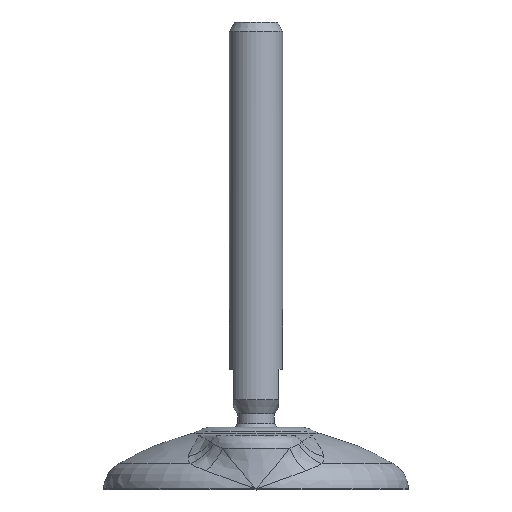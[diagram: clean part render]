
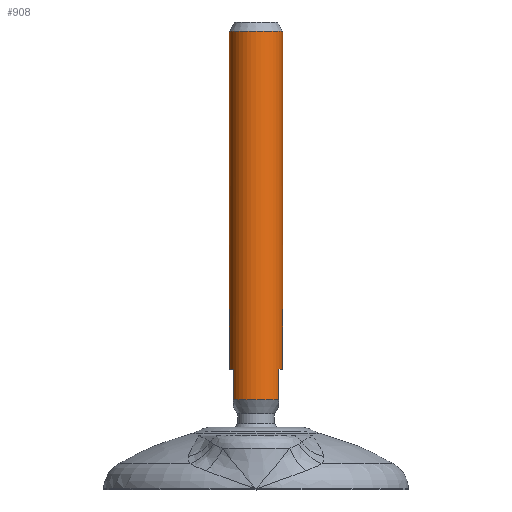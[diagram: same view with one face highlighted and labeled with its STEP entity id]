
A CAD part, left-side view. The second image highlights one B-rep face of the part: STEP entity #908.
In plain terms, the highlighted cylindrical face has radius 7 mm (diameter 14 mm), a full revolution.
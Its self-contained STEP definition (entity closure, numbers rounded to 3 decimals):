
#30=CYLINDRICAL_SURFACE('',#1021,7.);
#42=LINE('',#4946,#62);
#43=LINE('',#4950,#63);
#44=LINE('',#4955,#64);
#45=LINE('',#4959,#65);
#46=LINE('',#4964,#66);
#62=VECTOR('',#1225,1.);
#63=VECTOR('',#1228,7.);
#64=VECTOR('',#1233,1.);
#65=VECTOR('',#1236,1.);
#66=VECTOR('',#1241,1.);
#208=FACE_OUTER_BOUND('',#272,.T.);
#272=EDGE_LOOP('',(#796,#797,#798,#799,#800,#801,#802,#803,#804,#805,#806,
#807,#808));
#338=CIRCLE('',#1022,7.);
#339=CIRCLE('',#1023,7.);
#340=CIRCLE('',#1024,7.);
#341=CIRCLE('',#1025,7.);
#342=CIRCLE('',#1026,7.);
#343=CIRCLE('',#1027,7.);
#344=CIRCLE('',#1028,7.);
#421=VERTEX_POINT('',#4942);
#422=VERTEX_POINT('',#4943);
#423=VERTEX_POINT('',#4945);
#424=VERTEX_POINT('',#4947);
#425=VERTEX_POINT('',#4949);
#426=VERTEX_POINT('',#4952);
#427=VERTEX_POINT('',#4954);
#428=VERTEX_POINT('',#4956);
#429=VERTEX_POINT('',#4958);
#430=VERTEX_POINT('',#4960);
#431=VERTEX_POINT('',#4962);
#549=EDGE_CURVE('',#421,#422,#338,.T.);
#550=EDGE_CURVE('',#422,#423,#42,.T.);
#551=EDGE_CURVE('',#424,#423,#339,.T.);
#552=EDGE_CURVE('',#424,#425,#43,.T.);
#553=EDGE_CURVE('',#425,#425,#340,.T.);
#554=EDGE_CURVE('',#426,#424,#341,.T.);
#555=EDGE_CURVE('',#427,#426,#44,.T.);
#556=EDGE_CURVE('',#428,#427,#342,.T.);
#557=EDGE_CURVE('',#429,#428,#45,.T.);
#558=EDGE_CURVE('',#430,#429,#343,.T.);
#559=EDGE_CURVE('',#431,#430,#344,.T.);
#560=EDGE_CURVE('',#431,#421,#46,.T.);
#796=ORIENTED_EDGE('',*,*,#549,.T.);
#797=ORIENTED_EDGE('',*,*,#550,.T.);
#798=ORIENTED_EDGE('',*,*,#551,.F.);
#799=ORIENTED_EDGE('',*,*,#552,.T.);
#800=ORIENTED_EDGE('',*,*,#553,.T.);
#801=ORIENTED_EDGE('',*,*,#552,.F.);
#802=ORIENTED_EDGE('',*,*,#554,.F.);
#803=ORIENTED_EDGE('',*,*,#555,.F.);
#804=ORIENTED_EDGE('',*,*,#556,.F.);
#805=ORIENTED_EDGE('',*,*,#557,.F.);
#806=ORIENTED_EDGE('',*,*,#558,.F.);
#807=ORIENTED_EDGE('',*,*,#559,.F.);
#808=ORIENTED_EDGE('',*,*,#560,.T.);
#908=ADVANCED_FACE('',(#208),#30,.T.);
#1021=AXIS2_PLACEMENT_3D('',#4941,#1221,#1222);
#1022=AXIS2_PLACEMENT_3D('',#4944,#1223,#1224);
#1023=AXIS2_PLACEMENT_3D('',#4948,#1226,#1227);
#1024=AXIS2_PLACEMENT_3D('',#4951,#1229,#1230);
#1025=AXIS2_PLACEMENT_3D('',#4953,#1231,#1232);
#1026=AXIS2_PLACEMENT_3D('',#4957,#1234,#1235);
#1027=AXIS2_PLACEMENT_3D('',#4961,#1237,#1238);
#1028=AXIS2_PLACEMENT_3D('',#4963,#1239,#1240);
#1221=DIRECTION('center_axis',(0.,0.,-1.));
#1222=DIRECTION('ref_axis',(1.,0.,0.));
#1223=DIRECTION('center_axis',(0.,0.,1.));
#1224=DIRECTION('ref_axis',(0.515,0.857,0.));
#1225=DIRECTION('',(0.,0.,-1.));
#1226=DIRECTION('center_axis',(0.,0.,-1.));
#1227=DIRECTION('ref_axis',(-0.515,-0.857,0.));
#1228=DIRECTION('',(0.,0.,1.));
#1229=DIRECTION('center_axis',(0.,0.,-1.));
#1230=DIRECTION('ref_axis',(1.,0.,0.));
#1231=DIRECTION('center_axis',(0.,0.,-1.));
#1232=DIRECTION('ref_axis',(-0.515,-0.857,0.));
#1233=DIRECTION('',(0.,0.,-1.));
#1234=DIRECTION('center_axis',(0.,0.,-1.));
#1235=DIRECTION('ref_axis',(0.515,-0.857,0.));
#1236=DIRECTION('',(0.,0.,1.));
#1237=DIRECTION('center_axis',(0.,0.,-1.));
#1238=DIRECTION('ref_axis',(0.515,0.857,0.));
#1239=DIRECTION('center_axis',(0.,0.,-1.));
#1240=DIRECTION('ref_axis',(0.515,0.857,0.));
#1241=DIRECTION('',(0.,0.,1.));
#4941=CARTESIAN_POINT('Origin',(0.,0.,125.075));
#4942=CARTESIAN_POINT('',(3.606,6.,31.698));
#4943=CARTESIAN_POINT('',(-3.606,6.,31.698));
#4944=CARTESIAN_POINT('Origin',(0.,0.,31.698));
#4945=CARTESIAN_POINT('',(-3.606,6.,23.698));
#4946=CARTESIAN_POINT('',(-3.606,6.,31.698));
#4947=CARTESIAN_POINT('',(-7.,0.,23.698));
#4948=CARTESIAN_POINT('Origin',(0.,0.,23.698));
#4949=CARTESIAN_POINT('',(-7.,0.,120.247));
#4950=CARTESIAN_POINT('',(-7.,0.,125.075));
#4951=CARTESIAN_POINT('Origin',(0.,0.,
120.247));
#4952=CARTESIAN_POINT('',(-3.606,-6.,23.698));
#4953=CARTESIAN_POINT('Origin',(0.,0.,23.698));
#4954=CARTESIAN_POINT('',(-3.606,-6.,31.698));
#4955=CARTESIAN_POINT('',(-3.606,-6.,31.698));
#4956=CARTESIAN_POINT('',(3.606,-6.,31.698));
#4957=CARTESIAN_POINT('Origin',(0.,0.,31.698));
#4958=CARTESIAN_POINT('',(3.606,-6.,23.698));
#4959=CARTESIAN_POINT('',(3.606,-6.,23.698));
#4960=CARTESIAN_POINT('',(7.,0.,23.698));
#4961=CARTESIAN_POINT('Origin',(0.,0.,23.698));
#4962=CARTESIAN_POINT('',(3.606,6.,23.698));
#4963=CARTESIAN_POINT('Origin',(0.,0.,23.698));
#4964=CARTESIAN_POINT('',(3.606,6.,23.698));
